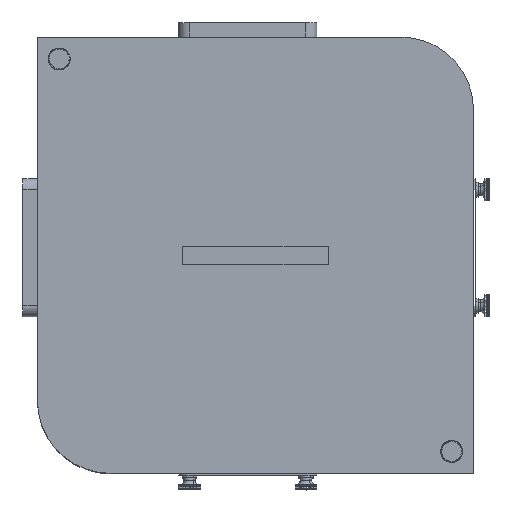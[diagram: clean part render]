
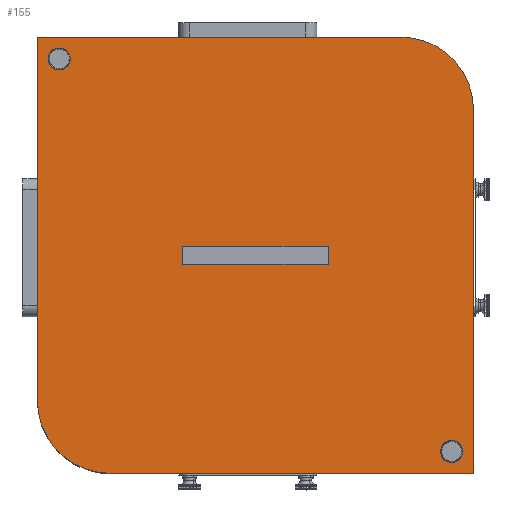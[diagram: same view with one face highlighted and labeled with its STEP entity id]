
A CAD part, top view. The second image highlights one B-rep face of the part: STEP entity #155.
In plain terms, the highlighted planar face has unit normal (0, 0, 1).
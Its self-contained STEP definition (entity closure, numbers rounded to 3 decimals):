
#155 = ADVANCED_FACE ( 'NONE', ( #24985, #22804, #32881, #17520, #24560 ), #33774, .T. ) ;
#191 = DIRECTION ( 'NONE',  ( 0., 1., 0. ) ) ;
#203 = EDGE_CURVE ( 'NONE', #19960, #29089, #6038, .T. ) ;
#569 = CARTESIAN_POINT ( 'NONE',  ( 101.53, -108.196, 175.5 ) ) ;
#818 = VERTEX_POINT ( 'NONE', #28819 ) ;
#971 = VERTEX_POINT ( 'NONE', #30452 ) ;
#1142 = DIRECTION ( 'NONE',  ( 1., 0., 0. ) ) ;
#1426 = CARTESIAN_POINT ( 'NONE',  ( -126.47, 119.804, 175.5 ) ) ;
#1744 = CARTESIAN_POINT ( 'NONE',  ( 113.53, -120.196, 175.5 ) ) ;
#1992 = DIRECTION ( 'NONE',  ( 1., 0., 0. ) ) ;
#2068 = VECTOR ( 'NONE', #191, 1000. ) ;
#2296 = VERTEX_POINT ( 'NONE', #11829 ) ;
#2380 = ORIENTED_EDGE ( 'NONE', *, *, #29521, .F. ) ;
#2899 = CIRCLE ( 'NONE', #22375, 2.25 ) ;
#3308 = EDGE_CURVE ( 'NONE', #8112, #10829, #13635, .T. ) ;
#3433 = CARTESIAN_POINT ( 'NONE',  ( -114.47, 107.804, 175.5 ) ) ;
#4493 = ORIENTED_EDGE ( 'NONE', *, *, #31146, .T. ) ;
#4682 = CIRCLE ( 'NONE', #19641, 2.25 ) ;
#4780 = VECTOR ( 'NONE', #1992, 1000. ) ;
#5009 = EDGE_LOOP ( 'NONE', ( #13173, #20919 ) ) ;
#5345 = CARTESIAN_POINT ( 'NONE',  ( -111.97, 107.804, 175.5 ) ) ;
#5650 = CARTESIAN_POINT ( 'NONE',  ( -114.47, 107.804, 175.5 ) ) ;
#6038 = LINE ( 'NONE', #17085, #2068 ) ;
#6099 = DIRECTION ( 'NONE',  ( 0., 0., -1. ) ) ;
#6112 = EDGE_LOOP ( 'NONE', ( #13647, #31259 ) ) ;
#6288 = CARTESIAN_POINT ( 'NONE',  ( -86.47, -120.196, 175.5 ) ) ;
#6667 = DIRECTION ( 'NONE',  ( 0., 0., -1. ) ) ;
#7901 = EDGE_CURVE ( 'NONE', #2296, #32635, #20092, .T. ) ;
#8112 = VERTEX_POINT ( 'NONE', #15852 ) ;
#8208 = EDGE_LOOP ( 'NONE', ( #14973, #29238 ) ) ;
#8547 = DIRECTION ( 'NONE',  ( 0., 0., 1. ) ) ;
#8574 = CARTESIAN_POINT ( 'NONE',  ( 73.53, 79.804, 175.5 ) ) ;
#8670 = DIRECTION ( 'NONE',  ( 1., 0., 0. ) ) ;
#9046 = VERTEX_POINT ( 'NONE', #1744 ) ;
#9349 = EDGE_CURVE ( 'NONE', #9046, #818, #33143, .T. ) ;
#9602 = CARTESIAN_POINT ( 'NONE',  ( -38.47, -0.196, 175.5 ) ) ;
#10158 = VERTEX_POINT ( 'NONE', #18836 ) ;
#10199 = DIRECTION ( 'NONE',  ( 0., 0., -1. ) ) ;
#10829 = VERTEX_POINT ( 'NONE', #27616 ) ;
#11500 = CIRCLE ( 'NONE', #23901, 2.5 ) ;
#11610 = EDGE_CURVE ( 'NONE', #10829, #9046, #21467, .T. ) ;
#11829 = CARTESIAN_POINT ( 'NONE',  ( 104.03, -108.196, 175.5 ) ) ;
#11853 = VERTEX_POINT ( 'NONE', #23477 ) ;
#11991 = EDGE_CURVE ( 'NONE', #22983, #11853, #2899, .T. ) ;
#12370 = CIRCLE ( 'NONE', #17199, 2.25 ) ;
#12480 = CARTESIAN_POINT ( 'NONE',  ( 99.03, -108.196, 175.5 ) ) ;
#12569 = AXIS2_PLACEMENT_3D ( 'NONE', #19312, #13653, #27531 ) ;
#13173 = ORIENTED_EDGE ( 'NONE', *, *, #27810, .T. ) ;
#13635 = CIRCLE ( 'NONE', #24157, 40. ) ;
#13647 = ORIENTED_EDGE ( 'NONE', *, *, #31469, .T. ) ;
#13653 = DIRECTION ( 'NONE',  ( 0., 0., -1. ) ) ;
#14265 = DIRECTION ( 'NONE',  ( -1., 0., 0. ) ) ;
#14646 = CARTESIAN_POINT ( 'NONE',  ( 73.53, 79.804, 175.5 ) ) ;
#14973 = ORIENTED_EDGE ( 'NONE', *, *, #7901, .T. ) ;
#15049 = AXIS2_PLACEMENT_3D ( 'NONE', #25129, #25356, #17120 ) ;
#15064 = DIRECTION ( 'NONE',  ( 1., 0., 0. ) ) ;
#15115 = VERTEX_POINT ( 'NONE', #5345 ) ;
#15436 = AXIS2_PLACEMENT_3D ( 'NONE', #3433, #31485, #15064 ) ;
#15437 = EDGE_CURVE ( 'NONE', #23558, #10158, #12370, .T. ) ;
#15852 = CARTESIAN_POINT ( 'NONE',  ( 73.53, 119.804, 175.5 ) ) ;
#17085 = CARTESIAN_POINT ( 'NONE',  ( -126.47, -80.196, 175.5 ) ) ;
#17120 = DIRECTION ( 'NONE',  ( 1., 0., 0. ) ) ;
#17199 = AXIS2_PLACEMENT_3D ( 'NONE', #24272, #10199, #35637 ) ;
#17411 = DIRECTION ( 'NONE',  ( -1., 0., 0. ) ) ;
#17520 = FACE_BOUND ( 'NONE', #5009, .T. ) ;
#18017 = EDGE_LOOP ( 'NONE', ( #4493, #28959 ) ) ;
#18343 = CIRCLE ( 'NONE', #15436, 2.5 ) ;
#18409 = DIRECTION ( 'NONE',  ( 0., 0., -1. ) ) ;
#18836 = CARTESIAN_POINT ( 'NONE',  ( -36.22, -0.196, 175.5 ) ) ;
#19312 = CARTESIAN_POINT ( 'NONE',  ( 25.53, -0.196, 175.5 ) ) ;
#19641 = AXIS2_PLACEMENT_3D ( 'NONE', #9602, #6667, #1142 ) ;
#19960 = VERTEX_POINT ( 'NONE', #28656 ) ;
#20092 = CIRCLE ( 'NONE', #35619, 2.5 ) ;
#20286 = DIRECTION ( 'NONE',  ( 1., 0., 0. ) ) ;
#20536 = DIRECTION ( 'NONE',  ( 0., 0., -1. ) ) ;
#20681 = ORIENTED_EDGE ( 'NONE', *, *, #203, .F. ) ;
#20919 = ORIENTED_EDGE ( 'NONE', *, *, #11991, .T. ) ;
#21105 = CARTESIAN_POINT ( 'NONE',  ( 25.53, -0.196, 175.5 ) ) ;
#21219 = DIRECTION ( 'NONE',  ( 1., 0., 0. ) ) ;
#21467 = LINE ( 'NONE', #35705, #26310 ) ;
#22095 = CIRCLE ( 'NONE', #12569, 2.25 ) ;
#22375 = AXIS2_PLACEMENT_3D ( 'NONE', #21105, #18409, #21219 ) ;
#22773 = DIRECTION ( 'NONE',  ( 0., 0., -1. ) ) ;
#22804 = FACE_BOUND ( 'NONE', #6112, .T. ) ;
#22983 = VERTEX_POINT ( 'NONE', #29899 ) ;
#23317 = AXIS2_PLACEMENT_3D ( 'NONE', #5650, #22773, #36226 ) ;
#23477 = CARTESIAN_POINT ( 'NONE',  ( 27.78, -0.196, 175.5 ) ) ;
#23558 = VERTEX_POINT ( 'NONE', #32877 ) ;
#23901 = AXIS2_PLACEMENT_3D ( 'NONE', #31596, #20536, #20286 ) ;
#24105 = ORIENTED_EDGE ( 'NONE', *, *, #11610, .F. ) ;
#24157 = AXIS2_PLACEMENT_3D ( 'NONE', #8574, #28524, #31224 ) ;
#24272 = CARTESIAN_POINT ( 'NONE',  ( -38.47, -0.196, 175.5 ) ) ;
#24560 = FACE_OUTER_BOUND ( 'NONE', #28715, .T. ) ;
#24836 = VECTOR ( 'NONE', #17411, 1000. ) ;
#24985 = FACE_BOUND ( 'NONE', #8208, .T. ) ;
#25002 = CIRCLE ( 'NONE', #15049, 40. ) ;
#25097 = ORIENTED_EDGE ( 'NONE', *, *, #30716, .F. ) ;
#25129 = CARTESIAN_POINT ( 'NONE',  ( -86.47, -80.196, 175.5 ) ) ;
#25356 = DIRECTION ( 'NONE',  ( 0., 0., -1. ) ) ;
#25631 = EDGE_CURVE ( 'NONE', #971, #15115, #35306, .T. ) ;
#26310 = VECTOR ( 'NONE', #35592, 1000. ) ;
#26779 = ORIENTED_EDGE ( 'NONE', *, *, #9349, .F. ) ;
#27531 = DIRECTION ( 'NONE',  ( 1., 0., 0. ) ) ;
#27616 = CARTESIAN_POINT ( 'NONE',  ( 113.53, 79.804, 175.5 ) ) ;
#27810 = EDGE_CURVE ( 'NONE', #11853, #22983, #22095, .T. ) ;
#27970 = EDGE_CURVE ( 'NONE', #32635, #2296, #11500, .T. ) ;
#28524 = DIRECTION ( 'NONE',  ( 0., 0., -1. ) ) ;
#28656 = CARTESIAN_POINT ( 'NONE',  ( -126.47, -80.196, 175.5 ) ) ;
#28715 = EDGE_LOOP ( 'NONE', ( #2380, #20681, #25097, #26779, #24105, #33750 ) ) ;
#28819 = CARTESIAN_POINT ( 'NONE',  ( -86.47, -120.196, 175.5 ) ) ;
#28959 = ORIENTED_EDGE ( 'NONE', *, *, #15437, .T. ) ;
#29004 = LINE ( 'NONE', #29556, #4780 ) ;
#29089 = VERTEX_POINT ( 'NONE', #1426 ) ;
#29238 = ORIENTED_EDGE ( 'NONE', *, *, #27970, .T. ) ;
#29521 = EDGE_CURVE ( 'NONE', #29089, #8112, #29004, .T. ) ;
#29556 = CARTESIAN_POINT ( 'NONE',  ( -126.47, 119.804, 175.5 ) ) ;
#29899 = CARTESIAN_POINT ( 'NONE',  ( 23.28, -0.196, 175.5 ) ) ;
#30452 = CARTESIAN_POINT ( 'NONE',  ( -116.97, 107.804, 175.5 ) ) ;
#30716 = EDGE_CURVE ( 'NONE', #818, #19960, #25002, .T. ) ;
#31146 = EDGE_CURVE ( 'NONE', #10158, #23558, #4682, .T. ) ;
#31224 = DIRECTION ( 'NONE',  ( -1., 0., 0. ) ) ;
#31259 = ORIENTED_EDGE ( 'NONE', *, *, #25631, .T. ) ;
#31469 = EDGE_CURVE ( 'NONE', #15115, #971, #18343, .T. ) ;
#31485 = DIRECTION ( 'NONE',  ( 0., 0., -1. ) ) ;
#31596 = CARTESIAN_POINT ( 'NONE',  ( 101.53, -108.196, 175.5 ) ) ;
#32635 = VERTEX_POINT ( 'NONE', #12480 ) ;
#32877 = CARTESIAN_POINT ( 'NONE',  ( -40.72, -0.196, 175.5 ) ) ;
#32881 = FACE_BOUND ( 'NONE', #18017, .T. ) ;
#33143 = LINE ( 'NONE', #6288, #24836 ) ;
#33204 = AXIS2_PLACEMENT_3D ( 'NONE', #14646, #8547, #14265 ) ;
#33750 = ORIENTED_EDGE ( 'NONE', *, *, #3308, .F. ) ;
#33774 = PLANE ( 'NONE',  #33204 ) ;
#35306 = CIRCLE ( 'NONE', #23317, 2.5 ) ;
#35592 = DIRECTION ( 'NONE',  ( 0., -1., 0. ) ) ;
#35619 = AXIS2_PLACEMENT_3D ( 'NONE', #569, #6099, #8670 ) ;
#35637 = DIRECTION ( 'NONE',  ( 1., 0., 0. ) ) ;
#35705 = CARTESIAN_POINT ( 'NONE',  ( 113.53, -120.196, 175.5 ) ) ;
#36226 = DIRECTION ( 'NONE',  ( 1., 0., 0. ) ) ;
